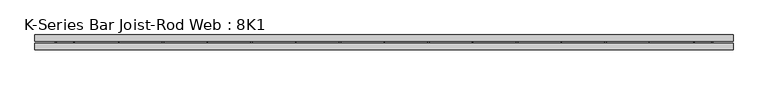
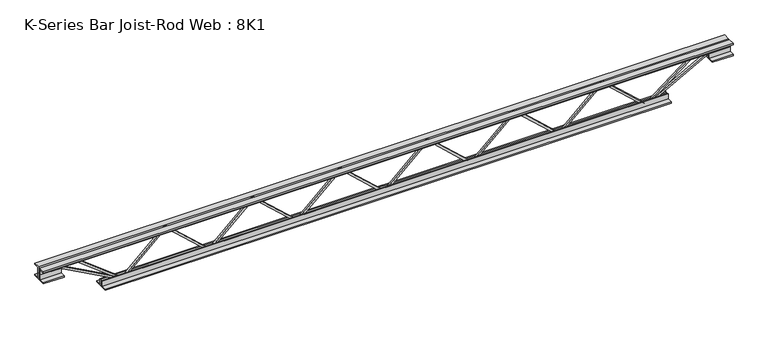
"""IFC4 building model written with IfcOpenShell, lengths in millimetres: beam geometry, K-Series Bar Joist-Rod Web : 8K1."""

from ifc_helpers import new_model, si_unit, frame, origin, place, context, project, spatial, polyline, outline, extrude, source, transform, mapped, element, save


def k_series_bar_joist_rod_web_8k1_7ca94746(model_context):
    return source(origin(), model_context, "Body", "SweptSolid", [
        extrude(outline(polyline([(-90.4875, 430.0376473), (-100.0125, 430.0376473), (-100.0125, 435.059607), (90.4875, 643.7284306), (90.4875, 646.3845111), (-100.0125, 855.0533348), (-100.0125, 860.0752945), (-90.4875, 860.0752945), (-90.4875, 858.7472543), (100.0125, 650.0784306), (100.0125, 640.0345111), (-90.4875, 431.3656875), (-90.4875, 430.0376473)])), frame((0.0, -4.7625, 0.0), z_axis=(0.0, 1.0, 0.0), x_axis=(0.0, 0.0, 1.0)), (0.0, 0.0, 1.0), 9.525),
        extrude(outline(polyline([(-90.4875, 0.0), (-100.0125, 0.0), (-100.0125, 5.0219598), (90.4875, 213.6907834), (90.4875, 216.3468639), (-100.0125, 425.0156875), (-100.0125, 430.0376473), (-90.4875, 430.0376473), (-90.4875, 428.709607), (100.0125, 220.0407834), (100.0125, 209.9968639), (-90.4875, 1.3280402), (-90.4875, 0.0)])), frame((0.0, -4.7625, 0.0), z_axis=(0.0, 1.0, 0.0), x_axis=(0.0, 0.0, 1.0)), (0.0, 0.0, 1.0), 9.525),
        extrude(outline(polyline([(-90.4875, -430.0376473), (-100.0125, -430.0376473), (-100.0125, -425.0156875), (90.4875, -216.3468639), (90.4875, -213.6907834), (-100.0125, -5.0219598), (-100.0125, 0.0), (-90.4875, 0.0), (-90.4875, -1.3280402), (100.0125, -209.9968639), (100.0125, -220.0407834), (-90.4875, -428.709607), (-90.4875, -430.0376473)])), frame((0.0, -4.7625, 0.0), z_axis=(0.0, 1.0, 0.0), x_axis=(0.0, 0.0, 1.0)), (0.0, 0.0, 1.0), 9.525),
        extrude(outline(polyline([(-90.4875, -860.0752945), (-100.0125, -860.0752945), (-100.0125, -855.0533348), (90.4875, -646.3845111), (90.4875, -643.7284306), (-100.0125, -435.059607), (-100.0125, -430.0376473), (-90.4875, -430.0376473), (-90.4875, -431.3656875), (100.0125, -640.0345111), (100.0125, -650.0784306), (-90.4875, -858.7472543), (-90.4875, -860.0752945)])), frame((0.0, -4.7625, 0.0), z_axis=(0.0, 1.0, 0.0), x_axis=(0.0, 0.0, 1.0)), (0.0, 0.0, 1.0), 9.525),
        extrude(outline(polyline([(-90.4875, 860.0752945), (-100.0125, 860.0752945), (-100.0125, 865.0972543), (90.4875, 1073.7660779), (90.4875, 1076.4221584), (-100.0125, 1285.090982), (-100.0125, 1290.1129418), (-90.4875, 1290.1129418), (-90.4875, 1288.7849015), (100.0125, 1080.1160779), (100.0125, 1070.0721584), (-90.4875, 861.4033348), (-90.4875, 860.0752945)])), frame((0.0, -4.7625, 0.0), z_axis=(0.0, 1.0, 0.0), x_axis=(0.0, 0.0, 1.0)), (0.0, 0.0, 1.0), 9.525),
        extrude(outline(polyline([(-90.4875, -1290.1129418), (-100.0125, -1290.1129418), (-100.0125, -1285.090982), (90.4875, -1076.4221584), (90.4875, -1073.7660779), (-100.0125, -865.0972543), (-100.0125, -860.0752945), (-90.4875, -860.0752945), (-90.4875, -861.4033348), (100.0125, -1070.0721584), (100.0125, -1080.1160779), (-90.4875, -1288.7849015), (-90.4875, -1290.1129418)])), frame((0.0, -4.7625, 0.0), z_axis=(0.0, 1.0, 0.0), x_axis=(0.0, 0.0, 1.0)), (0.0, 0.0, 1.0), 9.525),
        extrude(outline(polyline([(4.7625, 101.6), (36.5125, 101.6), (36.5125, 95.25), (11.1125, 95.25), (11.1125, 69.85), (4.7625, 69.85), (4.7625, 101.6)])), frame((-1696.5129418, 0.0, 0.0), z_axis=(1.0, 0.0, 0.0), x_axis=(0.0, 1.0, 0.0)), (0.0, 0.0, 1.0), 3393.0258836),
        extrude(outline(polyline([(-4.7625, 101.6), (-4.7625, 69.85), (-11.1125, 69.85), (-11.1125, 95.25), (-36.5125, 95.25), (-36.5125, 101.6), (-4.7625, 101.6)])), frame((-1696.5129418, 0.0, 0.0), z_axis=(1.0, 0.0, 0.0), x_axis=(0.0, 1.0, 0.0)), (0.0, 0.0, 1.0), 3393.0258836),
        extrude(outline(polyline([(-4.7625, 38.1), (-36.5125, 38.1), (-36.5125, 44.45), (-11.1125, 44.45), (-11.1125, 69.85), (-4.7625, 69.85), (-4.7625, 38.1)])), frame((-1696.5129418, 0.0, 0.0), z_axis=(1.0, 0.0, 0.0), x_axis=(0.0, 1.0, 0.0)), (0.0, 0.0, 1.0), 101.6),
        extrude(outline(polyline([(36.5125, 38.1), (4.7625, 38.1), (4.7625, 69.85), (11.1125, 69.85), (11.1125, 44.45), (36.5125, 44.45), (36.5125, 38.1)])), frame((-1696.5129418, 0.0, 0.0), z_axis=(1.0, 0.0, 0.0), x_axis=(0.0, 1.0, 0.0)), (0.0, 0.0, 1.0), 101.6),
        extrude(outline(polyline([(4.7625, 38.1), (4.7625, 69.85), (11.1125, 69.85), (11.1125, 44.45), (36.5125, 44.45), (36.5125, 38.1), (4.7625, 38.1)])), frame((1594.9129418, 0.0, 0.0), z_axis=(1.0, 0.0, 0.0), x_axis=(0.0, 1.0, 0.0)), (0.0, 0.0, 1.0), 101.6),
        extrude(outline(polyline([(-4.7625, 38.1), (-36.5125, 38.1), (-36.5125, 44.45), (-11.1125, 44.45), (-11.1125, 69.85), (-4.7625, 69.85), (-4.7625, 38.1)])), frame((1594.9129418, 0.0, 0.0), z_axis=(1.0, 0.0, 0.0), x_axis=(0.0, 1.0, 0.0)), (0.0, 0.0, 1.0), 101.6),
        extrude(outline(polyline([(4.7625, -101.6), (4.7625, -69.85), (11.1125, -69.85), (11.1125, -95.25), (36.5125, -95.25), (36.5125, -101.6), (4.7625, -101.6)])), frame((-1391.7129418, 0.0, 0.0), z_axis=(1.0, 0.0, 0.0), x_axis=(0.0, 1.0, 0.0)), (0.0, 0.0, 1.0), 2783.4258836),
        extrude(outline(polyline([(-4.7625, -101.6), (-36.5125, -101.6), (-36.5125, -95.25), (-11.1125, -95.25), (-11.1125, -69.85), (-4.7625, -69.85), (-4.7625, -101.6)])), frame((-1391.7129418, 0.0, 0.0), z_axis=(1.0, 0.0, 0.0), x_axis=(0.0, 1.0, 0.0)), (0.0, 0.0, 1.0), 2783.4258836),
        extrude(outline(polyline([(0.0, -9.525), (0.0, 0.0), (346.6425392, 0.0), (346.6425392, -9.525), (0.0, -9.525)])), frame((-1597.1812403, 4.7625, 65.662372), z_axis=(0.47628314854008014, 0.0, 0.8792919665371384), x_axis=(0.8792919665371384, 0.0, -0.47628314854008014)), (0.0, 0.0, 1.0), 9.525),
        extrude(outline(polyline([(0.0, -9.525), (0.0, 0.0), (271.092428, 0.0), (271.092428, -9.525), (0.0, -9.525)])), frame((-1508.0322107, 4.7625, 66.0725904), z_axis=(0.6090173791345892, 0.0, 0.793156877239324), x_axis=(0.793156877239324, 0.0, -0.6090173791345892)), (0.0, 0.0, 1.0), 9.525),
        extrude(outline(polyline([(0.0, -9.525), (0.0, 0.0), (346.6425392, 0.0), (346.6425392, -9.525), (0.0, -9.525)])), frame((1597.1812403, -4.7625, 65.662372), z_axis=(-0.47628314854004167, 0.0, 0.8792919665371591), x_axis=(-0.8792919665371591, 0.0, -0.47628314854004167)), (0.0, 0.0, 1.0), 9.525),
        extrude(outline(polyline([(0.0, -9.525), (0.0, 0.0), (271.092428, 0.0), (271.092428, -9.525), (0.0, -9.525)])), frame((1508.0322107, -4.7625, 66.0725904), z_axis=(-0.6090173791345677, 0.0, 0.7931568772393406), x_axis=(-0.7931568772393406, 0.0, -0.6090173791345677)), (0.0, 0.0, 1.0), 9.525),
    ])


if __name__ == "__main__":
    model = new_model("IFC4")
    model_context = context("Model", 3, world=origin())
    ifc_project = project(units=[si_unit("LENGTHUNIT", "METRE", prefix="MILLI")], contexts=[model_context])
    site = spatial("IfcSite", under=ifc_project)
    building = spatial("IfcBuilding", under=site)
    placement = place(None, origin())
    k_series_bar_joist_rod_web_8k1_shape = k_series_bar_joist_rod_web_8k1_7ca94746(model_context)
    element("IfcBeam", 1, ObjectType="K-Series Bar Joist-Rod Web : 8K1", at=placement, inside=building, context=model_context, shape_type="MappedRepresentation", body=[
        mapped(k_series_bar_joist_rod_web_8k1_shape, transform((0.0, 0.0, 0.0), x_axis=(1.0, 0.0, 0.0), y_axis=(0.0, 1.0, 0.0), z_axis=(0.0, 0.0, 1.0))),
    ])
    save(model, "model.ifc")
